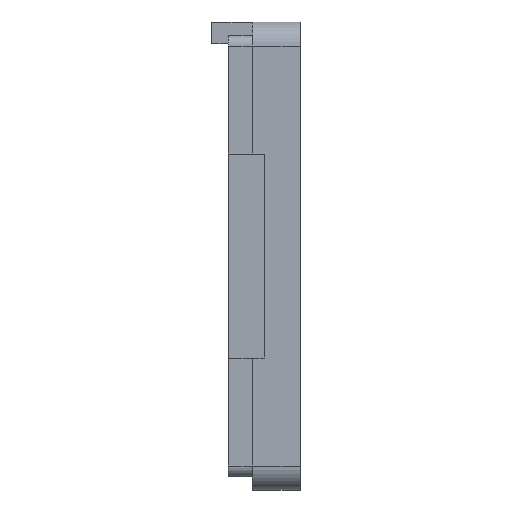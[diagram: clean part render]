
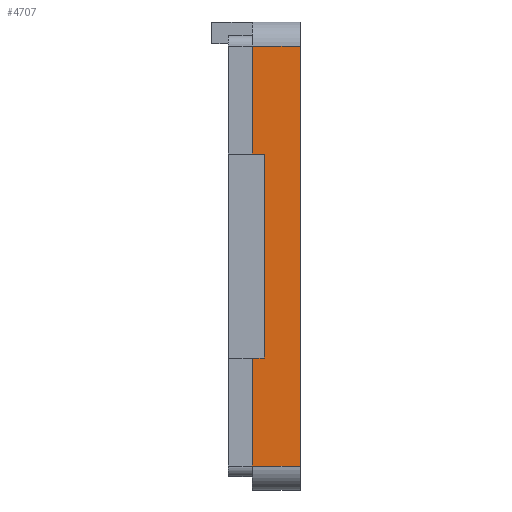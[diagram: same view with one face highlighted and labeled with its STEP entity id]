
A CAD part, left-side view. The second image highlights one B-rep face of the part: STEP entity #4707.
In plain terms, the highlighted planar face has unit normal (-1, 0, 0).
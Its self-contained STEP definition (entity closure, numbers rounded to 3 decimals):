
#82 = CARTESIAN_POINT ( 'NONE',  ( -36.5, -2., -8.5 ) ) ;
#116 = EDGE_CURVE ( 'NONE', #6321, #5125, #4682, .T. ) ;
#163 = CARTESIAN_POINT ( 'NONE',  ( -36.5, -2., -19.5 ) ) ;
#231 = LINE ( 'NONE', #163, #6477 ) ;
#341 = ORIENTED_EDGE ( 'NONE', *, *, #2480, .F. ) ;
#361 = PLANE ( 'NONE',  #6057 ) ;
#453 = DIRECTION ( 'NONE',  ( -1., 0., 0. ) ) ;
#753 = CARTESIAN_POINT ( 'NONE',  ( -36.5, -2., -8.5 ) ) ;
#850 = CARTESIAN_POINT ( 'NONE',  ( -36.5, -2., -19.5 ) ) ;
#1078 = CARTESIAN_POINT ( 'NONE',  ( -36.5, -3., 8.5 ) ) ;
#1093 = CARTESIAN_POINT ( 'NONE',  ( -36.5, -3., -8.5 ) ) ;
#1194 = CARTESIAN_POINT ( 'NONE',  ( -36.5, -6., -17.5 ) ) ;
#1316 = DIRECTION ( 'NONE',  ( 0., -1., 0. ) ) ;
#1411 = EDGE_CURVE ( 'NONE', #5251, #5855, #3813, .T. ) ;
#1465 = CARTESIAN_POINT ( 'NONE',  ( -36.5, -2., -17.5 ) ) ;
#1482 = ORIENTED_EDGE ( 'NONE', *, *, #2795, .T. ) ;
#1574 = VECTOR ( 'NONE', #4510, 1000. ) ;
#1849 = VERTEX_POINT ( 'NONE', #4762 ) ;
#2127 = EDGE_CURVE ( 'NONE', #5125, #2937, #5283, .T. ) ;
#2141 = VECTOR ( 'NONE', #1316, 1000. ) ;
#2177 = CARTESIAN_POINT ( 'NONE',  ( -36.5, -6., -17.5 ) ) ;
#2195 = LINE ( 'NONE', #1194, #3125 ) ;
#2245 = CARTESIAN_POINT ( 'NONE',  ( -36.5, -5., -19.5 ) ) ;
#2254 = ORIENTED_EDGE ( 'NONE', *, *, #116, .T. ) ;
#2283 = VECTOR ( 'NONE', #5790, 1000. ) ;
#2480 = EDGE_CURVE ( 'NONE', #6131, #5855, #2195, .T. ) ;
#2496 = CARTESIAN_POINT ( 'NONE',  ( -36.5, -5., 17.5 ) ) ;
#2795 = EDGE_CURVE ( 'NONE', #3095, #1849, #3315, .T. ) ;
#2906 = CARTESIAN_POINT ( 'NONE',  ( -36.5, -2., 8.5 ) ) ;
#2937 = VERTEX_POINT ( 'NONE', #82 ) ;
#2962 = DIRECTION ( 'NONE',  ( 0., 0., 1. ) ) ;
#3095 = VERTEX_POINT ( 'NONE', #5373 ) ;
#3102 = LINE ( 'NONE', #2496, #1574 ) ;
#3125 = VECTOR ( 'NONE', #5799, 1000. ) ;
#3127 = ORIENTED_EDGE ( 'NONE', *, *, #4301, .T. ) ;
#3154 = VECTOR ( 'NONE', #5736, 1000. ) ;
#3315 = LINE ( 'NONE', #850, #5094 ) ;
#3438 = ORIENTED_EDGE ( 'NONE', *, *, #4851, .T. ) ;
#3698 = DIRECTION ( 'NONE',  ( 0., 1., 0. ) ) ;
#3813 = LINE ( 'NONE', #4248, #2283 ) ;
#3987 = EDGE_CURVE ( 'NONE', #2937, #5251, #231, .T. ) ;
#4248 = CARTESIAN_POINT ( 'NONE',  ( -36.5, -5., -17.5 ) ) ;
#4251 = DIRECTION ( 'NONE',  ( 0., 0., -1. ) ) ;
#4295 = ORIENTED_EDGE ( 'NONE', *, *, #2127, .T. ) ;
#4301 = EDGE_CURVE ( 'NONE', #1849, #6321, #6322, .T. ) ;
#4454 = CARTESIAN_POINT ( 'NONE',  ( -36.5, -6., 17.5 ) ) ;
#4510 = DIRECTION ( 'NONE',  ( 0., 1., 0. ) ) ;
#4682 = LINE ( 'NONE', #5670, #3154 ) ;
#4707 = ADVANCED_FACE ( 'NONE', ( #6466 ), #361, .T. ) ;
#4762 = CARTESIAN_POINT ( 'NONE',  ( -36.5, -2., 8.5 ) ) ;
#4797 = EDGE_LOOP ( 'NONE', ( #3438, #1482, #3127, #2254, #4295, #6167, #6441, #341 ) ) ;
#4851 = EDGE_CURVE ( 'NONE', #6131, #3095, #3102, .T. ) ;
#5094 = VECTOR ( 'NONE', #6451, 1000. ) ;
#5125 = VERTEX_POINT ( 'NONE', #1093 ) ;
#5251 = VERTEX_POINT ( 'NONE', #1465 ) ;
#5283 = LINE ( 'NONE', #753, #5707 ) ;
#5373 = CARTESIAN_POINT ( 'NONE',  ( -36.5, -2., 17.5 ) ) ;
#5670 = CARTESIAN_POINT ( 'NONE',  ( -36.5, -3., -19.5 ) ) ;
#5707 = VECTOR ( 'NONE', #3698, 1000. ) ;
#5736 = DIRECTION ( 'NONE',  ( 0., 0., -1. ) ) ;
#5790 = DIRECTION ( 'NONE',  ( 0., -1., 0. ) ) ;
#5799 = DIRECTION ( 'NONE',  ( 0., 0., -1. ) ) ;
#5855 = VERTEX_POINT ( 'NONE', #2177 ) ;
#6057 = AXIS2_PLACEMENT_3D ( 'NONE', #2245, #453, #2962 ) ;
#6131 = VERTEX_POINT ( 'NONE', #4454 ) ;
#6167 = ORIENTED_EDGE ( 'NONE', *, *, #3987, .T. ) ;
#6321 = VERTEX_POINT ( 'NONE', #1078 ) ;
#6322 = LINE ( 'NONE', #2906, #2141 ) ;
#6441 = ORIENTED_EDGE ( 'NONE', *, *, #1411, .T. ) ;
#6451 = DIRECTION ( 'NONE',  ( 0., 0., -1. ) ) ;
#6466 = FACE_OUTER_BOUND ( 'NONE', #4797, .T. ) ;
#6477 = VECTOR ( 'NONE', #4251, 1000. ) ;
